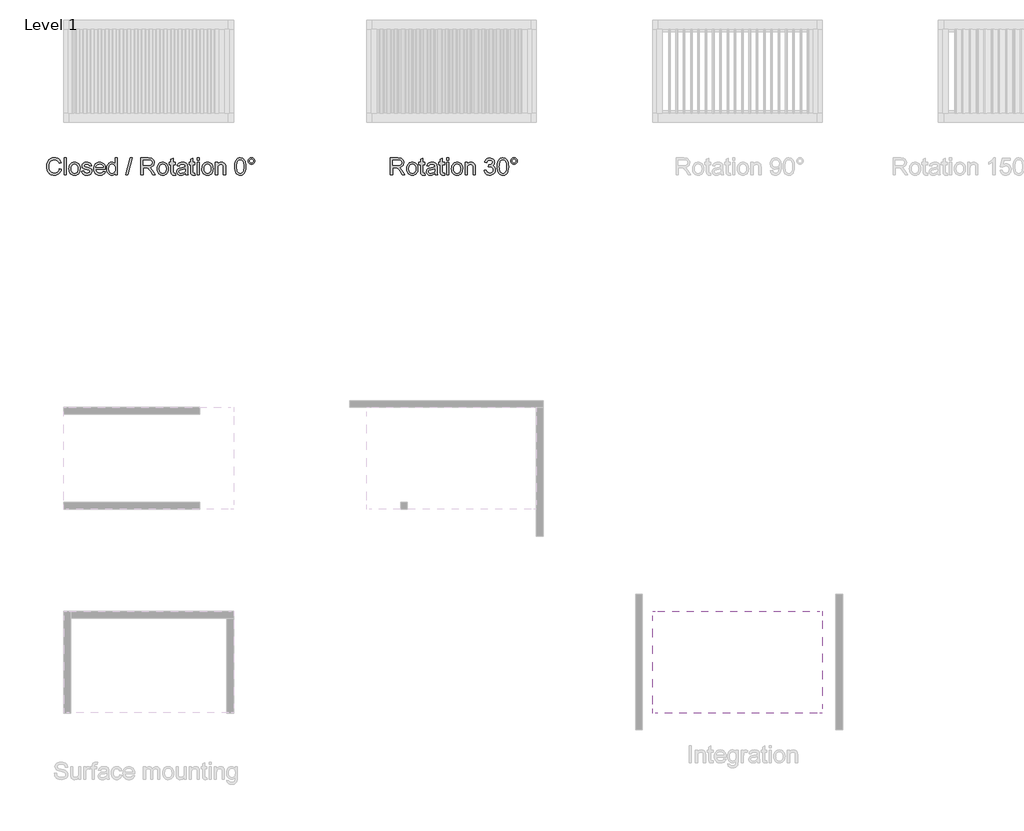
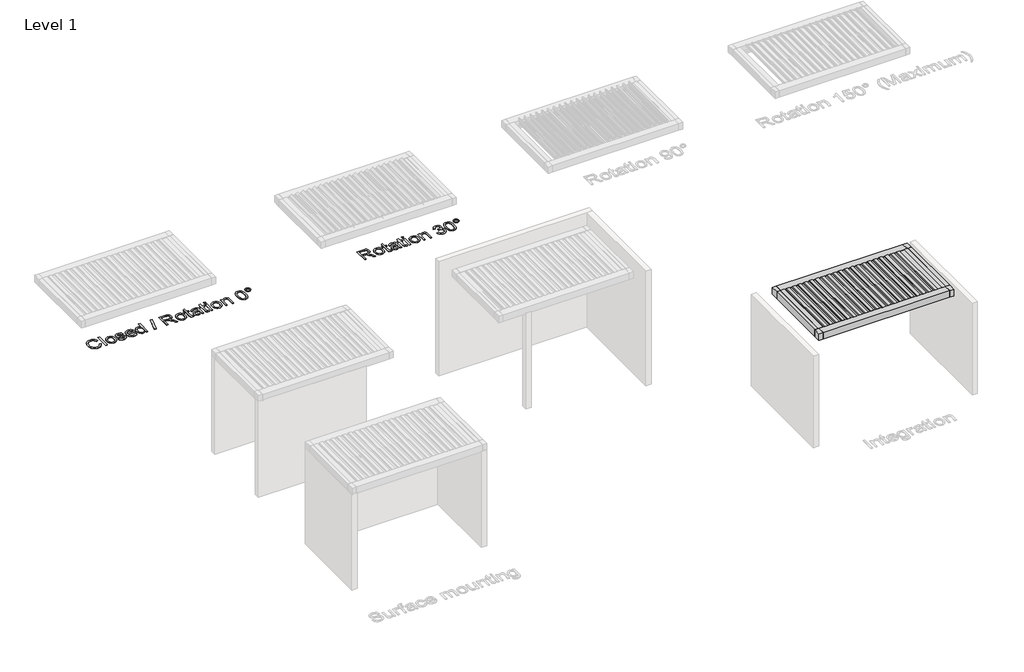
# One storey, part 10 of 12: 3 proxies.
"""IFC4 building model written with IfcOpenShell, lengths in millimetres."""

from ifc_helpers import new_model, si_unit, origin, origin_with_axes, place, context, project, spatial, polyline, outline, extrude, transform, mapped, element, save
from components import generic_models_02a216a0

model = new_model("IFC4")

# Units and contexts
model_context = context("Model", 3, world=origin())
ifc_project = project(units=[si_unit("LENGTHUNIT", "METRE", prefix="MILLI")], contexts=[model_context])

# Site, building, storey
site = spatial("IfcSite", under=ifc_project)
building = spatial("IfcBuilding", under=site)
storey = spatial("IfcBuildingStorey", under=building, Name="Level 1", Elevation=0.0)

# Proxies
placement = place(None, origin())
generic_models_shape = generic_models_02a216a0(model_context)
element("IfcBuildingElementProxy", 1, Name="Renson_Aero_Skye_Patio covers : Aero Skye - Single", ObjectType="Renson_Aero_Skye_Patio covers : Aero Skye - Single", at=placement, inside=storey, context=model_context, shape_type="MappedRepresentation", body=[
    mapped(generic_models_shape, transform((56233.8596032, 291.5921629, 4000.0), x_axis=(1.0, 0.0, 0.0), y_axis=(0.0, 1.0, 0.0), z_axis=(0.0, 0.0, 1.0))),
])
element("IfcBuildingElementProxy", 2, Name="500mm Arial", ObjectType="500mm Arial", at=placement, inside=storey, context=model_context, shape_type="SweptSolid", body=[
    extrude(outline(polyline([(36262.730449, 14824.3526803), (36325.5156429, 14808.1658725), (36313.0919613, 14769.1205637), (36296.5449358, 14735.0033407), (36275.8745662, 14705.8142036), (36251.0808525, 14681.5531525), (36222.7232821, 14662.4807703), (36191.361342, 14648.8576402), (36156.9950323, 14640.6837621), (36119.6243529, 14637.9591361), (36081.3378007, 14640.0208081), (36046.7990463, 14646.2058241), (36016.0080897, 14656.5141842), (35988.964931, 14670.9458883), (35965.2978559, 14689.2863386), (35944.6351505, 14711.3209373), (35926.9768148, 14737.0496843), (35912.3228486, 14766.4725797), (35900.81504, 14798.3173649), (35892.5951766, 14831.3117814), (35887.6632586, 14865.455829), (35886.019286, 14900.7495079), (35887.8778565, 14938.6183608), (35893.453568, 14973.9886818), (35902.7464205, 15006.8604709), (35915.7564139, 15037.2337282), (35932.1923085, 15064.6064479), (35951.7628642, 15088.4766244), (35974.4680811, 15108.8442578), (36000.3079592, 15125.709348), (36028.4049465, 15138.9339393), (36057.8814914, 15148.380076), (36088.7375937, 15154.0477579), (36120.9732536, 15155.9369853), (36156.8839012, 15153.4921028), (36189.8131719, 15146.1574556), (36219.7610656, 15133.9330434), (36246.7275823, 15116.8188664), (36270.2681978, 15095.2671129), (36289.9383883, 15069.7299711), (36305.7381535, 15040.207441), (36317.6674937, 15006.6995226), (36254.8822998, 14991.7389881), (36244.9954712, 15016.4292349), (36233.1159484, 15037.5249681), (36219.2437315, 15055.0261876), (36203.3788205, 15068.9328934), (36185.4292448, 15079.5286613), (36165.303034, 15087.0970669), (36143.000188, 15091.6381103), (36118.5207069, 15093.1517914), (36090.3547417, 15091.4733298), (36064.5953378, 15086.437945), (36041.2424953, 15078.045637), (36020.2962142, 15066.2964058), (36002.0209097, 15051.7190817), (35986.6809969, 15034.8424952), (35974.2764759, 15015.6666462), (35964.8073466, 14994.1915347), (35952.8051965, 14948.2369422), (35948.8044798, 14900.8721353), (35953.5409605, 14842.8694074), (35967.7504026, 14792.7148287), (35978.5416078, 14771.0596083), (35991.9693006, 14752.3244513), (36008.033481, 14736.5093576), (36026.7341491, 14723.6143273), (36068.4121135, 14706.4618292), (36113.370359, 14700.7443299), (36140.6664366, 14702.6910388), (36165.7782149, 14708.5311655), (36188.7056938, 14718.2647099), (36209.4488734, 14731.8916722), (36227.5172443, 14749.3507385), (36242.4202972, 14770.5805953), (36254.1580321, 14795.5812426), (36262.730449, 14824.3526803)])), origin_with_axes(), (0.0, 0.0, 1.0), 5.0),
    extrude(outline(polyline([(36403.9971352, 14645.8072853), (36403.9971352, 15148.088836), (36466.782329, 15148.088836), (36466.782329, 14645.8072853), (36403.9971352, 14645.8072853)])), origin_with_axes(), (0.0, 0.0, 1.0), 5.0),
    extrude(outline(polyline([(36545.2638213, 14830.2387922), (36548.6590656, 14878.0098021), (36558.8447983, 14919.1742645), (36575.8210196, 14953.7321795), (36599.5877293, 14981.6835469), (36623.5153874, 14999.5488163), (36649.926249, 15012.309723), (36678.820314, 15019.966267), (36710.1975825, 15022.5184484), (36744.8359716, 15019.4106119), (36776.1557586, 15010.0871026), (36804.1569433, 14994.5479204), (36828.839526, 14972.7930653), (36848.9848973, 14945.5583014), (36863.3744483, 14913.5793925), (36872.0081788, 14876.8563388), (36874.886089, 14835.3891401), (36869.7970548, 14771.9601528), (36863.4357619, 14745.9248374), (36854.529952, 14723.6756409), (36843.1907559, 14704.4576388), (36829.5293047, 14687.5159065), (36813.5455984, 14672.850444), (36795.2396371, 14660.4612514), (36754.5120345, 14643.5846649), (36710.1975825, 14637.9591361), (36675.0533557, 14641.0554762), (36643.4423288, 14650.3444966), (36615.3645019, 14665.8261972), (36590.8198751, 14687.5005781), (36570.8891016, 14714.9997572), (36556.6528348, 14747.9558526), (36548.1110747, 14786.3688643), (36545.2638213, 14830.2387922)]), holes=[polyline([(36608.0490152, 14830.3614195), (36609.8654325, 14799.9076881), (36615.3146846, 14773.5389797), (36624.3967713, 14751.2552943), (36637.1116928, 14733.0566318), (36652.578065, 14718.9199997), (36669.914504, 14708.8224054), (36689.1210099, 14702.7638488), (36710.1975825, 14700.7443299), (36731.1668562, 14702.7753451), (36750.29672, 14708.8683906), (36767.5871738, 14719.0234665), (36783.0382176, 14733.2405728), (36795.753139, 14751.6193442), (36804.8352258, 14774.2594153), (36810.2844778, 14801.1607862), (36812.1008952, 14832.3234568), (36810.2729815, 14861.811498), (36804.7892405, 14887.4904277), (36795.6496722, 14909.3602459), (36782.8542766, 14927.4209526), (36767.3457512, 14941.5575847), (36750.0667937, 14951.655179), (36731.0174042, 14957.7137356), (36710.1975825, 14959.7332545), (36689.1210099, 14957.7213998), (36669.914504, 14951.6858359), (36652.578065, 14941.6265626), (36637.1116928, 14927.5435799), (36624.3967713, 14909.3985669), (36615.3146846, 14887.1532025), (36609.8654325, 14860.8074867), (36608.0490152, 14830.3614195)])]), origin_with_axes(), (0.0, 0.0, 1.0), 5.0),
    extrude(outline(polyline([(36921.9749844, 14755.6813745), (36984.7601782, 14763.5295237), (36994.6623353, 14736.6741381), (37013.8228559, 14716.9311377), (37042.3643673, 14704.7910318), (37080.409497, 14700.7443299), (37117.9947742, 14704.4538067), (37144.4209642, 14715.582237), (37160.0559489, 14731.7077312), (37165.2676105, 14750.4083993), (37160.0252921, 14766.411266), (37144.2983368, 14778.6126855), (37079.673733, 14796.516276), (37022.3761123, 14813.0862942), (36985.1280602, 14827.2344226), (36961.2004021, 14842.670138), (36943.8639631, 14863.1029171), (36933.333341, 14887.2298446), (36929.8231336, 14913.7480051), (36932.6435623, 14938.074202), (36941.1048482, 14960.5303322), (36954.4405705, 14980.2273473), (36971.8843084, 14996.2761994), (36989.2207474, 15006.3776258), (37011.7995049, 15014.8542401), (37037.9037981, 15020.6023963), (37065.8168445, 15022.5184484), (37106.6824028, 15019.4374366), (37142.2136722, 15010.1944015), (37170.7858405, 14995.6937195), (37190.7740955, 14976.8397673), (37204.0178474, 14952.2376589), (37212.3565059, 14920.4925084), (37149.5713121, 14912.6443591), (37141.6465208, 14932.4026879), (37125.9655507, 14947.2865803), (37102.3751178, 14956.621586), (37070.7219378, 14959.7332545), (37034.6695023, 14956.7595417), (37010.6345452, 14947.8384033), (36997.1148819, 14934.9625335), (36992.6083275, 14920.1246264), (36994.4783943, 14910.467724), (37000.0885947, 14901.8531539), (37009.6841834, 14894.1582889), (37023.5104151, 14887.9962654), (37077.5890684, 14874.6298863), (37169.7435082, 14845.0766993), (37194.0850335, 14830.9438994), (37212.5404469, 14811.5994378), (37224.174715, 14786.9820009), (37228.0528044, 14757.0302752), (37223.5002647, 14726.0668739), (37209.8426456, 14696.9428826), (37187.6011133, 14671.9422354), (37157.296834, 14653.3488662), (37120.6925755, 14641.8065686), (37079.5511057, 14637.9591361), (37045.7596116, 14639.8138745), (37016.2447457, 14645.3780896), (36991.006508, 14654.6517816), (36970.0448984, 14667.6349503), (36952.9230572, 14684.2662822), (36939.2041245, 14704.4844635), (36928.8881002, 14728.2894943), (36921.9749844, 14755.6813745)])), origin_with_axes(), (0.0, 0.0, 1.0), 5.0),
    extrude(outline(polyline([(37556.9393081, 14755.6813745), (37618.4982286, 14747.8332253), (37609.0597562, 14723.1774674), (37596.31801, 14701.4494371), (37580.27299, 14682.6491343), (37560.9246964, 14666.776559), (37538.4723983, 14654.1689365), (37513.1153654, 14645.1634918), (37484.8535975, 14639.760225), (37453.6870948, 14637.9591361), (37414.7299243, 14641.0669725), (37380.0187252, 14650.3904818), (37349.5534975, 14665.929664), (37323.3342411, 14687.6845191), (37302.2500043, 14715.0495746), (37287.1898351, 14747.419358), (37278.1537336, 14784.7938695), (37275.1416998, 14827.1731089), (37278.1843904, 14870.9893874), (37287.3124624, 14909.6093327), (37302.5259158, 14943.0329448), (37323.8247505, 14971.2602237), (37349.975029, 14993.685697), (37379.7428137, 15009.7038922), (37413.1281048, 15019.3148093), (37450.1309021, 15022.5184484), (37485.9419151, 15019.3224735), (37518.327027, 15009.734549), (37547.2862378, 14993.7546749), (37572.8195475, 14971.382851), (37593.6623618, 14943.2168858), (37608.5500863, 14909.8545873), (37617.482721, 14871.2959557), (37620.4602659, 14827.5409909), (37620.0923839, 14810.6184191), (37337.9268936, 14810.6184191), (37341.5635604, 14785.5641224), (37348.7947409, 14763.6214942), (37359.620435, 14744.7905346), (37374.0406428, 14729.0712435), (37391.2582866, 14716.6782188), (37410.4762887, 14707.8260583), (37431.6946492, 14702.514762), (37454.9133681, 14700.7443299), (37488.329316, 14704.024611), (37516.4722886, 14713.8654544), (37539.342286, 14730.8799967), (37556.9393081, 14755.6813745)]), holes=[polyline([(37337.9268936, 14873.403613), (37557.6750721, 14873.403613), (37549.1831293, 14906.5743062), (37532.5364691, 14930.3026949), (37515.4146279, 14943.1785647), (37495.9322105, 14952.3756146), (37474.0892171, 14957.8938445), (37449.8856475, 14959.7332545), (37407.5638896, 14953.862471), (37389.1506293, 14946.5239916), (37372.5691148, 14936.2501205), (37358.6547448, 14923.5160385), (37348.2429179, 14908.7969266), (37341.3336342, 14892.0927847), (37337.9268936, 14873.403613)])]), origin_with_axes(), (0.0, 0.0, 1.0), 5.0),
    extrude(outline(polyline([(37910.8417874, 14645.8072853), (37910.8417874, 14705.0362865), (37892.0568131, 14675.6900332), (37869.3017788, 14654.7284237), (37842.5766847, 14642.151458), (37811.8815307, 14637.9591361), (37771.2918839, 14644.029189), (37734.1358024, 14662.2393477), (37702.6818918, 14691.3173538), (37679.1987578, 14729.9909485), (37664.5754485, 14776.6966335), (37659.7010121, 14829.8709102), (37664.1922381, 14882.386065), (37677.6659162, 14929.8121856), (37687.7673426, 14950.9424077), (37700.1067179, 14969.4514705), (37714.6840419, 14985.3393742), (37731.4993148, 14998.6061187), (37769.4678024, 15016.5403659), (37811.6362761, 15022.5184484), (37842.3544227, 15018.2418202), (37869.5163766, 15005.4119356), (37892.5396582, 14985.7455772), (37910.8417874, 14960.9595278), (37910.8417874, 15148.088836), (37973.6269813, 15148.088836), (37973.6269813, 14645.8072853), (37910.8417874, 14645.8072853)]), holes=[polyline([(37722.4862059, 14830.1161649), (37724.256638, 14799.6700977), (37729.5679343, 14773.3243819), (37738.4200948, 14751.0790175), (37750.8131195, 14732.9340045), (37765.6127056, 14718.8510219), (37781.6845503, 14708.7917485), (37799.0286535, 14702.7561846), (37817.6450153, 14700.7443299), (37836.3495155, 14702.6642141), (37853.5901519, 14708.4238666), (37869.3669246, 14718.0232874), (37883.6798335, 14731.4624765), (37895.5631883, 14748.8487329), (37904.0512989, 14770.2893554), (37909.1441653, 14795.7843441), (37910.8417874, 14825.3336989), (37909.1135085, 14857.7303071), (37903.9286716, 14885.513062), (37895.2872768, 14908.6819635), (37883.1893241, 14927.2370116), (37868.5621827, 14941.4541179), (37852.3332218, 14951.6091938), (37834.5024413, 14957.7022393), (37815.0698414, 14959.7332545), (37796.0855976, 14957.7827135), (37778.7414943, 14951.9310905), (37763.0375317, 14942.1783855), (37748.9737096, 14928.5245986), (37737.3854267, 14910.6708255), (37729.1080818, 14888.3181622), (37724.1416749, 14861.4666086), (37722.4862059, 14830.1161649)])]), origin_with_axes(), (0.0, 0.0, 1.0), 5.0),
    extrude(outline(polyline([(38216.9196074, 14645.8072853), (38358.1862936, 15148.088836), (38414.8401208, 15148.088836), (38273.5734347, 14645.8072853), (38216.9196074, 14645.8072853)])), origin_with_axes(), (0.0, 0.0, 1.0), 5.0),
    extrude(outline(polyline([(38664.2641136, 14645.8072853), (38664.2641136, 15148.088836), (38880.7013541, 15148.088836), (38938.8726945, 15144.701256), (38981.1944524, 15134.5385159), (39012.1271968, 15115.7765341), (39036.131497, 15086.5912292), (39051.5365556, 15050.4008379), (39056.6715751, 15010.6235972), (39054.5447573, 14984.8258723), (39048.1643039, 14961.1434688), (39037.530215, 14939.5763869), (39022.6424905, 14920.1246264), (39003.3095253, 14903.4089882), (38979.339714, 14890.0502733), (38950.7330568, 14880.0484815), (38917.4895536, 14873.403613), (38938.1829158, 14859.8839496), (38953.1741071, 14846.5482273), (39004.0644498, 14781.9236235), (39087.8189173, 14645.8072853), (39014.855655, 14645.8072853), (38949.4952872, 14749.9178899), (38902.2837644, 14818.8344504), (38884.7327276, 14838.9300043), (38869.1130712, 14851.3920069), (38839.2533159, 14863.3481718), (38802.8329984, 14865.5554637), (38727.0493074, 14865.5554637), (38727.0493074, 14645.8072853), (38664.2641136, 14645.8072853)]), holes=[polyline([(38727.0493074, 14928.3406576), (38867.5802296, 14928.3406576), (38907.9399501, 14930.563278), (38939.255905, 14937.2311391), (38962.8310095, 14948.7887652), (38979.9681791, 14965.6806801), (38990.4068307, 14986.1134592), (38993.8863812, 15008.2936779), (38992.2270802, 15024.3501941), (38987.2491769, 15038.919854), (38978.9526715, 15052.0026574), (38967.3375639, 15063.5986045), (38952.1356069, 15073.0945585), (38933.0785531, 15079.8773828), (38883.3991554, 15085.3036422), (38727.0493074, 15085.3036422), (38727.0493074, 14928.3406576)])]), origin_with_axes(), (0.0, 0.0, 1.0), 5.0),
    extrude(outline(polyline([(39143.0012166, 14830.2387922), (39146.3964609, 14878.0098021), (39156.5821936, 14919.1742645), (39173.5584148, 14953.7321795), (39197.3251246, 14981.6835469), (39221.2527827, 14999.5488163), (39247.6636442, 15012.309723), (39276.5577093, 15019.966267), (39307.9349778, 15022.5184484), (39342.5733669, 15019.4106119), (39373.8931538, 15010.0871026), (39401.8943386, 14994.5479204), (39426.5769212, 14972.7930653), (39446.7222926, 14945.5583014), (39461.1118435, 14913.5793925), (39469.7455741, 14876.8563388), (39472.6234843, 14835.3891401), (39467.53445, 14771.9601528), (39461.1731572, 14745.9248374), (39452.2673472, 14723.6756409), (39440.9281511, 14704.4576388), (39427.2667, 14687.5159065), (39411.2829937, 14672.850444), (39392.9770323, 14660.4612514), (39352.2494298, 14643.5846649), (39307.9349778, 14637.9591361), (39272.7907509, 14641.0554762), (39241.1797241, 14650.3444966), (39213.1018972, 14665.8261972), (39188.5572704, 14687.5005781), (39168.6264968, 14714.9997572), (39154.39023, 14747.9558526), (39145.84847, 14786.3688643), (39143.0012166, 14830.2387922)]), holes=[polyline([(39205.7864105, 14830.3614195), (39207.6028278, 14799.9076881), (39213.0520799, 14773.5389797), (39222.1341666, 14751.2552943), (39234.8490881, 14733.0566318), (39250.3154603, 14718.9199997), (39267.6518993, 14708.8224054), (39286.8584051, 14702.7638488), (39307.9349778, 14700.7443299), (39328.9042515, 14702.7753451), (39348.0341153, 14708.8683906), (39365.324569, 14719.0234665), (39380.7756128, 14733.2405728), (39393.4905343, 14751.6193442), (39402.572621, 14774.2594153), (39408.0218731, 14801.1607862), (39409.8382904, 14832.3234568), (39408.0103768, 14861.811498), (39402.5266358, 14887.4904277), (39393.3870675, 14909.3602459), (39380.5916718, 14927.4209526), (39365.0831465, 14941.5575847), (39347.804189, 14951.655179), (39328.7547995, 14957.7137356), (39307.9349778, 14959.7332545), (39286.8584051, 14957.7213998), (39267.6518993, 14951.6858359), (39250.3154603, 14941.6265626), (39234.8490881, 14927.5435799), (39222.1341666, 14909.3985669), (39213.0520799, 14887.1532025), (39207.6028278, 14860.8074867), (39205.7864105, 14830.3614195)])]), origin_with_axes(), (0.0, 0.0, 1.0), 5.0),
    extrude(outline(polyline([(39676.6753643, 14698.1691559), (39684.5235135, 14643.9678753), (39637.5572455, 14637.9591361), (39607.4215787, 14640.5649669), (39584.9501202, 14648.3824593), (39569.0698807, 14660.4305946), (39558.7078712, 14675.7283542), (39553.0057002, 14702.0012601), (39551.1049766, 14746.974834), (39551.1049766, 14951.8851053), (39504.0160812, 14951.8851053), (39504.0160812, 15014.6702991), (39551.1049766, 15014.6702991), (39551.1049766, 15104.3108786), (39613.8901704, 15141.2217055), (39613.8901704, 15014.6702991), (39676.6753643, 15014.6702991), (39676.6753643, 14951.8851053), (39613.8901704, 14951.8851053), (39613.8901704, 14748.8142439), (39617.2011084, 14716.4406284), (39627.9309999, 14704.9749728), (39649.3294693, 14700.7443299), (39676.6753643, 14698.1691559)])), origin_with_axes(), (0.0, 0.0, 1.0), 5.0),
    extrude(outline(polyline([(39974.905035, 14692.8961807), (39944.907324, 14667.1750978), (39914.0205648, 14650.3444966), (39881.5396503, 14641.0554762), (39846.7594734, 14637.9591361), (39818.8042739, 14639.8215387), (39794.2903038, 14645.4087465), (39773.2175633, 14654.7207595), (39755.5860523, 14667.7575777), (39741.664018, 14683.6914666), (39731.7197078, 14701.6946917), (39725.7531217, 14721.7672531), (39723.7642597, 14743.9091507), (39726.7686293, 14769.9368018), (39735.7817382, 14793.57322), (39749.6846119, 14813.8067298), (39767.3582761, 14829.6256555), (39788.1282804, 14841.5818204), (39811.3201745, 14850.2270473), (39865.6440825, 14859.6693518), (39929.8394906, 14869.6021657), (39974.537153, 14881.2517622), (39974.905035, 14895.231278), (39970.5824216, 14923.2516233), (39957.6145813, 14941.5844094), (39944.539442, 14949.5245291), (39928.6132173, 14955.1960432), (39888.2075115, 14959.7332545), (39850.8061753, 14956.7135565), (39824.6865537, 14947.6544623), (39806.8749337, 14930.9005031), (39794.3976027, 14904.7962099), (39731.6124089, 14912.6443591), (39742.510913, 14946.980012), (39758.7743629, 14973.958025), (39781.9202717, 14994.5900735), (39813.4661528, 15009.8878332), (39852.0477771, 15019.3607946), (39896.3009154, 15022.5184484), (39938.7453006, 15019.7286766), (39972.3911747, 15011.3593612), (39997.759704, 14998.7747312), (40015.3720545, 14983.3390159), (40027.0523079, 14964.2551374), (40034.6245456, 14940.7260181), (40037.6902289, 14885.7889735), (40037.6902289, 14807.6753632), (40040.8785395, 14698.5983516), (40045.5996918, 14671.635667), (40053.3865273, 14645.8072853), (39990.6013335, 14645.8072853), (39980.5458923, 14667.6349503), (39974.905035, 14692.8961807)]), holes=[polyline([(39974.905035, 14818.4665684), (39932.7212329, 14808.0125883), (39873.614859, 14799.2140773), (39819.5975194, 14789.0360087), (39805.5413615, 14782.0769077), (39795.1333667, 14772.481319), (39788.6954318, 14760.9850066), (39786.5494535, 14748.3237346), (39791.2246205, 14729.6537234), (39805.2501216, 14714.3559637), (39828.3193884, 14704.1472384), (39860.1258525, 14700.7443299), (39893.8483688, 14704.4997919), (39923.6468104, 14715.766178), (39947.8043947, 14732.3668531), (39964.6043392, 14752.1251819), (39972.0539496, 14772.481319), (39974.537153, 14800.6856053), (39974.905035, 14818.4665684)])]), origin_with_axes(), (0.0, 0.0, 1.0), 5.0),
    extrude(outline(polyline([(40257.4384073, 14698.1691559), (40265.2865566, 14643.9678753), (40218.3202885, 14637.9591361), (40188.1846217, 14640.5649669), (40165.7131632, 14648.3824593), (40149.8329237, 14660.4305946), (40139.4709142, 14675.7283542), (40133.7687433, 14702.0012601), (40131.8680197, 14746.974834), (40131.8680197, 14951.8851053), (40084.7791243, 14951.8851053), (40084.7791243, 15014.6702991), (40131.8680197, 15014.6702991), (40131.8680197, 15104.3108786), (40194.6532135, 15141.2217055), (40194.6532135, 15014.6702991), (40257.4384073, 15014.6702991), (40257.4384073, 14951.8851053), (40194.6532135, 14951.8851053), (40194.6532135, 14748.8142439), (40197.9641515, 14716.4406284), (40208.694043, 14704.9749728), (40230.0925124, 14700.7443299), (40257.4384073, 14698.1691559)])), origin_with_axes(), (0.0, 0.0, 1.0), 5.0),
    extrude(outline(polyline([(40320.2236012, 14645.8072853), (40320.2236012, 15014.6702991), (40383.008795, 15014.6702991), (40383.008795, 14645.8072853), (40320.2236012, 14645.8072853)])), origin_with_axes(), (0.0, 0.0, 1.0), 5.0),
    extrude(outline(polyline([(40320.2236012, 15085.3036422), (40320.2236012, 15148.088836), (40383.008795, 15148.088836), (40383.008795, 15085.3036422), (40320.2236012, 15085.3036422)])), origin_with_axes(), (0.0, 0.0, 1.0), 5.0),
    extrude(outline(polyline([(40461.4902873, 14830.2387922), (40464.8855316, 14878.0098021), (40475.0712643, 14919.1742645), (40492.0474856, 14953.7321795), (40515.8141953, 14981.6835469), (40539.7418534, 14999.5488163), (40566.152715, 15012.309723), (40595.04678, 15019.966267), (40626.4240485, 15022.5184484), (40661.0624376, 15019.4106119), (40692.3822246, 15010.0871026), (40720.3834093, 14994.5479204), (40745.0659919, 14972.7930653), (40765.2113633, 14945.5583014), (40779.6009142, 14913.5793925), (40788.2346448, 14876.8563388), (40791.112555, 14835.3891401), (40786.0235207, 14771.9601528), (40779.6622279, 14745.9248374), (40770.7564179, 14723.6756409), (40759.4172219, 14704.4576388), (40745.7557707, 14687.5159065), (40729.7720644, 14672.850444), (40711.4661031, 14660.4612514), (40670.7385005, 14643.5846649), (40626.4240485, 14637.9591361), (40591.2798216, 14641.0554762), (40559.6687948, 14650.3444966), (40531.5909679, 14665.8261972), (40507.0463411, 14687.5005781), (40487.1155676, 14714.9997572), (40472.8793008, 14747.9558526), (40464.3375407, 14786.3688643), (40461.4902873, 14830.2387922)]), holes=[polyline([(40524.2754812, 14830.3614195), (40526.0918985, 14799.9076881), (40531.5411506, 14773.5389797), (40540.6232373, 14751.2552943), (40553.3381588, 14733.0566318), (40568.804531, 14718.9199997), (40586.14097, 14708.8224054), (40605.3474759, 14702.7638488), (40626.4240485, 14700.7443299), (40647.3933222, 14702.7753451), (40666.523186, 14708.8683906), (40683.8136397, 14719.0234665), (40699.2646835, 14733.2405728), (40711.979605, 14751.6193442), (40721.0616918, 14774.2594153), (40726.5109438, 14801.1607862), (40728.3273612, 14832.3234568), (40726.4994475, 14861.811498), (40721.0157065, 14887.4904277), (40711.8761382, 14909.3602459), (40699.0807425, 14927.4209526), (40683.5722172, 14941.5575847), (40666.2932597, 14951.655179), (40647.2438702, 14957.7137356), (40626.4240485, 14959.7332545), (40605.3474759, 14957.7213998), (40586.14097, 14951.6858359), (40568.804531, 14941.6265626), (40553.3381588, 14927.5435799), (40540.6232373, 14909.3985669), (40531.5411506, 14887.1532025), (40526.0918985, 14860.8074867), (40524.2754812, 14830.3614195)])]), origin_with_axes(), (0.0, 0.0, 1.0), 5.0),
    extrude(outline(polyline([(40861.7458981, 14645.8072853), (40861.7458981, 15014.6702991), (40924.5310919, 15014.6702991), (40924.5310919, 14963.1668198), (40946.3434286, 14989.1331573), (40972.5396923, 15007.6805412), (41003.1198831, 15018.8089716), (41038.0840011, 15022.5184484), (41069.0320739, 15019.5294071), (41097.374316, 15010.5622835), (41121.0107342, 14996.7360519), (41137.8413355, 14979.1696866), (41149.2610057, 14957.9091729), (41156.6646309, 14933.0004962), (41159.9755688, 14872.299967), (41159.9755688, 14645.8072853), (41097.190375, 14645.8072853), (41097.190375, 14863.8386811), (41095.3816219, 14896.3042672), (41089.9553624, 14919.3888624), (41079.9459065, 14935.9282237), (41064.3875638, 14948.7581083), (41044.4452939, 14956.989468), (41021.2840567, 14959.7332545), (41002.2193387, 14958.1927487), (40984.5111856, 14953.5712311), (40968.1595973, 14945.8687018), (40953.1645739, 14935.0851608), (40940.6374255, 14919.9943348), (40931.6894624, 14899.3699505), (40926.3206845, 14873.2120078), (40924.5310919, 14841.5205067), (40924.5310919, 14645.8072853), (40861.7458981, 14645.8072853)])), origin_with_axes(), (0.0, 0.0, 1.0), 5.0),
    extrude(outline(polyline([(41426.8126427, 14892.9013587), (41431.426496, 14973.2989031), (41445.2680561, 15037.4176692), (41455.6147372, 15063.617765), (41468.1993671, 15086.2386756), (41483.0219459, 15105.280401), (41500.0824734, 15120.7429411), (41519.4384313, 15132.7067701), (41541.1473011, 15141.2523623), (41565.2090828, 15146.3797176), (41591.6237765, 15148.088836), (41630.3126997, 15144.0421341), (41664.9549209, 15131.9020282), (41693.925628, 15112.1436994), (41715.6000089, 15085.2423285), (41731.9707577, 15051.4278418), (41745.0305685, 15010.9301655), (41753.5838249, 14959.5033283), (41756.4349104, 14892.9013587), (41751.8670422, 14812.9636668), (41738.1634379, 14748.9981849), (41727.897231, 14722.7865928), (41715.3700826, 14700.1311932), (41700.5819929, 14681.0319863), (41683.5329616, 14665.488972), (41664.1540111, 14653.4446688), (41642.3761634, 14644.8415951), (41618.1994186, 14639.6797508), (41591.6237765, 14637.9591361), (41557.042869, 14640.9481773), (41526.386036, 14649.9153009), (41499.6532777, 14664.860507), (41476.844594, 14685.7837954), (41454.9556153, 14723.6066631), (41439.3206305, 14770.7338795), (41429.9396396, 14827.1654447), (41426.8126427, 14892.9013587)]), holes=[polyline([(41489.5978365, 14893.023986), (41491.4372465, 14838.4433271), (41496.9554764, 14794.2629988), (41506.1525263, 14760.483001), (41519.0283961, 14737.1033338), (41534.6020673, 14721.1962696), (41551.892521, 14709.8340809), (41570.8997574, 14703.0167676), (41591.6237765, 14700.7443299), (41612.3477956, 14703.0244319), (41631.355032, 14709.8647377), (41648.6454858, 14721.2652474), (41664.2191569, 14737.2259611), (41677.0950267, 14760.6439493), (41686.2920766, 14794.4162829), (41691.8103065, 14838.5429618), (41693.6497165, 14893.023986), (41691.8716202, 14946.1599417), (41686.5373313, 14989.5623529), (41677.6468497, 15023.2312197), (41665.2001755, 15047.166542), (41649.8870875, 15063.8515233), (41632.3973643, 15075.7693672), (41612.731006, 15082.9200734), (41590.8880125, 15085.3036422), (41570.2712924, 15083.2036491), (41551.5859527, 15076.90367), (41534.8319935, 15066.4037047), (41520.0094148, 15051.7037533), (41506.7043493, 15025.6454453), (41497.2007311, 14990.5127148), (41491.4985602, 14946.3055617), (41489.5978365, 14893.023986)])]), origin_with_axes(), (0.0, 0.0, 1.0), 5.0),
    extrude(outline(polyline([(41827.0682534, 15061.8818218), (41828.7965324, 15080.7127815), (41833.9813693, 15098.0875415), (41842.622764, 15114.006102), (41854.7207167, 15128.468463), (41869.2405592, 15140.4859415), (41885.1476234, 15149.0698547), (41902.4419093, 15154.2202026), (41921.1234169, 15155.9369853), (41940.0616754, 15154.2202026), (41957.5130775, 15149.0698547), (41973.4776233, 15140.4859415), (41987.9553126, 15128.468463), (41999.9727912, 15114.006102), (42008.5567044, 15098.0875415), (42013.7070523, 15080.7127815), (42015.423835, 15061.8818218), (42013.695556, 15043.0930154), (42008.5107191, 15025.7220874), (41999.8693243, 15009.769038), (41987.7713717, 14995.233867), (41973.2362007, 14983.1359143), (41957.2831513, 14974.4945196), (41939.9122233, 14969.3096827), (41921.1234169, 14967.5814037), (41902.4419093, 14969.2981864), (41885.1476234, 14974.4485343), (41869.2405592, 14983.0324475), (41854.7207167, 14995.049926), (41842.622764, 15009.5276154), (41833.9813693, 15025.4921611), (41828.7965324, 15042.9435633), (41827.0682534, 15061.8818218)]), holes=[polyline([(41866.3089996, 15061.7591945), (41870.3403731, 15040.6366366), (41882.4344937, 15022.8863303), (41900.2307852, 15010.838195), (41921.3686715, 15006.8221499), (41942.3226168, 15010.838195), (41960.0575947, 15022.8863303), (41972.1517153, 15040.6366366), (41976.1830888, 15061.7591945), (41972.1517153, 15082.8817524), (41960.0575947, 15100.6320587), (41942.3226168, 15112.680194), (41921.3686715, 15116.6962391), (41900.2307852, 15112.680194), (41882.4344937, 15100.6320587), (41870.3403731, 15082.8817524), (41866.3089996, 15061.7591945)])]), origin_with_axes(), (0.0, 0.0, 1.0), 5.0),
])
element("IfcBuildingElementProxy", 3, Name="500mm Arial", ObjectType="500mm Arial", at=placement, inside=storey, context=model_context, shape_type="SweptSolid", body=[
    extrude(outline(polyline([(46014.9772616, 14645.8072853), (46014.9772616, 15148.088836), (46231.4145021, 15148.088836), (46289.5858426, 15144.701256), (46331.9076005, 15134.5385159), (46362.8403449, 15115.7765341), (46386.8446451, 15086.5912292), (46402.2497037, 15050.4008379), (46407.3847232, 15010.6235972), (46405.2579054, 14984.8258723), (46398.877452, 14961.1434688), (46388.2433631, 14939.5763869), (46373.3556386, 14920.1246264), (46354.0226733, 14903.4089882), (46330.0528621, 14890.0502733), (46301.4462049, 14880.0484815), (46268.2027017, 14873.403613), (46288.8960639, 14859.8839496), (46303.8872552, 14846.5482273), (46354.7775979, 14781.9236235), (46438.5320654, 14645.8072853), (46365.5688031, 14645.8072853), (46300.2084352, 14749.9178899), (46252.9969125, 14818.8344504), (46235.4458757, 14838.9300043), (46219.8262193, 14851.3920069), (46189.966464, 14863.3481718), (46153.5461465, 14865.5554637), (46077.7624555, 14865.5554637), (46077.7624555, 14645.8072853), (46014.9772616, 14645.8072853)]), holes=[polyline([(46077.7624555, 14928.3406576), (46218.2933776, 14928.3406576), (46258.6530982, 14930.563278), (46289.969053, 14937.2311391), (46313.5441576, 14948.7887652), (46330.6813272, 14965.6806801), (46341.1199788, 14986.1134592), (46344.5995293, 15008.2936779), (46342.9402282, 15024.3501941), (46337.962325, 15038.919854), (46329.6658196, 15052.0026574), (46318.050712, 15063.5986045), (46302.848755, 15073.0945585), (46283.7917012, 15079.8773828), (46234.1123034, 15085.3036422), (46077.7624555, 15085.3036422), (46077.7624555, 14928.3406576)])]), origin_with_axes(), (0.0, 0.0, 1.0), 5.0),
    extrude(outline(polyline([(46493.7143647, 14830.2387922), (46497.109609, 14878.0098021), (46507.2953417, 14919.1742645), (46524.2715629, 14953.7321795), (46548.0382727, 14981.6835469), (46571.9659308, 14999.5488163), (46598.3767923, 15012.309723), (46627.2708574, 15019.966267), (46658.6481259, 15022.5184484), (46693.286515, 15019.4106119), (46724.6063019, 15010.0871026), (46752.6074867, 14994.5479204), (46777.2900693, 14972.7930653), (46797.4354407, 14945.5583014), (46811.8249916, 14913.5793925), (46820.4587222, 14876.8563388), (46823.3366324, 14835.3891401), (46818.2475981, 14771.9601528), (46811.8863053, 14745.9248374), (46802.9804953, 14723.6756409), (46791.6412992, 14704.4576388), (46777.9798481, 14687.5159065), (46761.9961418, 14672.850444), (46743.6901804, 14660.4612514), (46702.9625779, 14643.5846649), (46658.6481259, 14637.9591361), (46623.503899, 14641.0554762), (46591.8928722, 14650.3444966), (46563.8150453, 14665.8261972), (46539.2704184, 14687.5005781), (46519.3396449, 14714.9997572), (46505.1033781, 14747.9558526), (46496.5616181, 14786.3688643), (46493.7143647, 14830.2387922)]), holes=[polyline([(46556.4995585, 14830.3614195), (46558.3159759, 14799.9076881), (46563.765228, 14773.5389797), (46572.8473147, 14751.2552943), (46585.5622362, 14733.0566318), (46601.0286084, 14718.9199997), (46618.3650474, 14708.8224054), (46637.5715532, 14702.7638488), (46658.6481259, 14700.7443299), (46679.6173996, 14702.7753451), (46698.7472634, 14708.8683906), (46716.0377171, 14719.0234665), (46731.4887609, 14733.2405728), (46744.2036824, 14751.6193442), (46753.2857691, 14774.2594153), (46758.7350212, 14801.1607862), (46760.5514385, 14832.3234568), (46758.7235249, 14861.811498), (46753.2397839, 14887.4904277), (46744.1002156, 14909.3602459), (46731.3048199, 14927.4209526), (46715.7962946, 14941.5575847), (46698.5173371, 14951.655179), (46679.4679475, 14957.7137356), (46658.6481259, 14959.7332545), (46637.5715532, 14957.7213998), (46618.3650474, 14951.6858359), (46601.0286084, 14941.6265626), (46585.5622362, 14927.5435799), (46572.8473147, 14909.3985669), (46563.765228, 14887.1532025), (46558.3159759, 14860.8074867), (46556.4995585, 14830.3614195)])]), origin_with_axes(), (0.0, 0.0, 1.0), 5.0),
    extrude(outline(polyline([(47027.3885124, 14698.1691559), (47035.2366616, 14643.9678753), (46988.2703936, 14637.9591361), (46958.1347268, 14640.5649669), (46935.6632682, 14648.3824593), (46919.7830288, 14660.4305946), (46909.4210193, 14675.7283542), (46903.7188483, 14702.0012601), (46901.8181247, 14746.974834), (46901.8181247, 14951.8851053), (46854.7292293, 14951.8851053), (46854.7292293, 15014.6702991), (46901.8181247, 15014.6702991), (46901.8181247, 15104.3108786), (46964.6033185, 15141.2217055), (46964.6033185, 15014.6702991), (47027.3885124, 15014.6702991), (47027.3885124, 14951.8851053), (46964.6033185, 14951.8851053), (46964.6033185, 14748.8142439), (46967.9142565, 14716.4406284), (46978.644148, 14704.9749728), (47000.0426174, 14700.7443299), (47027.3885124, 14698.1691559)])), origin_with_axes(), (0.0, 0.0, 1.0), 5.0),
    extrude(outline(polyline([(47325.6181831, 14692.8961807), (47295.6204721, 14667.1750978), (47264.7337129, 14650.3444966), (47232.2527984, 14641.0554762), (47197.4726215, 14637.9591361), (47169.5174219, 14639.8215387), (47145.0034519, 14645.4087465), (47123.9307114, 14654.7207595), (47106.2992003, 14667.7575777), (47092.3771661, 14683.6914666), (47082.4328559, 14701.6946917), (47076.4662698, 14721.7672531), (47074.4774078, 14743.9091507), (47077.4817774, 14769.9368018), (47086.4948863, 14793.57322), (47100.39776, 14813.8067298), (47118.0714242, 14829.6256555), (47138.8414285, 14841.5818204), (47162.0333226, 14850.2270473), (47216.3572306, 14859.6693518), (47280.5526387, 14869.6021657), (47325.2503011, 14881.2517622), (47325.6181831, 14895.231278), (47321.2955697, 14923.2516233), (47308.3277294, 14941.5844094), (47295.2525901, 14949.5245291), (47279.3263654, 14955.1960432), (47238.9206596, 14959.7332545), (47201.5193234, 14956.7135565), (47175.3997018, 14947.6544623), (47157.5880818, 14930.9005031), (47145.1107508, 14904.7962099), (47082.325557, 14912.6443591), (47093.2240611, 14946.980012), (47109.487511, 14973.958025), (47132.6334198, 14994.5900735), (47164.1793009, 15009.8878332), (47202.7609252, 15019.3607946), (47247.0140635, 15022.5184484), (47289.4584487, 15019.7286766), (47323.1043228, 15011.3593612), (47348.4728521, 14998.7747312), (47366.0852026, 14983.3390159), (47377.7654559, 14964.2551374), (47385.3376937, 14940.7260181), (47388.403377, 14885.7889735), (47388.403377, 14807.6753632), (47391.5916876, 14698.5983516), (47396.3128399, 14671.635667), (47404.0996754, 14645.8072853), (47341.3144816, 14645.8072853), (47331.2590404, 14667.6349503), (47325.6181831, 14692.8961807)]), holes=[polyline([(47325.6181831, 14818.4665684), (47283.434381, 14808.0125883), (47224.3280071, 14799.2140773), (47170.3106675, 14789.0360087), (47156.2545096, 14782.0769077), (47145.8465148, 14772.481319), (47139.4085799, 14760.9850066), (47137.2626016, 14748.3237346), (47141.9377686, 14729.6537234), (47155.9632697, 14714.3559637), (47179.0325365, 14704.1472384), (47210.8390006, 14700.7443299), (47244.5615169, 14704.4997919), (47274.3599585, 14715.766178), (47298.5175428, 14732.3668531), (47315.3174873, 14752.1251819), (47322.7670977, 14772.481319), (47325.2503011, 14800.6856053), (47325.6181831, 14818.4665684)])]), origin_with_axes(), (0.0, 0.0, 1.0), 5.0),
    extrude(outline(polyline([(47608.1515554, 14698.1691559), (47615.9997047, 14643.9678753), (47569.0334366, 14637.9591361), (47538.8977698, 14640.5649669), (47516.4263113, 14648.3824593), (47500.5460718, 14660.4305946), (47490.1840623, 14675.7283542), (47484.4818914, 14702.0012601), (47482.5811677, 14746.974834), (47482.5811677, 14951.8851053), (47435.4922724, 14951.8851053), (47435.4922724, 15014.6702991), (47482.5811677, 15014.6702991), (47482.5811677, 15104.3108786), (47545.3663616, 15141.2217055), (47545.3663616, 15014.6702991), (47608.1515554, 15014.6702991), (47608.1515554, 14951.8851053), (47545.3663616, 14951.8851053), (47545.3663616, 14748.8142439), (47548.6772995, 14716.4406284), (47559.4071911, 14704.9749728), (47580.8056605, 14700.7443299), (47608.1515554, 14698.1691559)])), origin_with_axes(), (0.0, 0.0, 1.0), 5.0),
    extrude(outline(polyline([(47670.9367493, 15085.3036422), (47670.9367493, 15148.088836), (47733.7219431, 15148.088836), (47733.7219431, 15085.3036422), (47670.9367493, 15085.3036422)])), origin_with_axes(), (0.0, 0.0, 1.0), 5.0),
    extrude(outline(polyline([(47670.9367493, 14645.8072853), (47670.9367493, 15014.6702991), (47733.7219431, 15014.6702991), (47733.7219431, 14645.8072853), (47670.9367493, 14645.8072853)])), origin_with_axes(), (0.0, 0.0, 1.0), 5.0),
    extrude(outline(polyline([(47812.2034354, 14830.2387922), (47815.5986797, 14878.0098021), (47825.7844124, 14919.1742645), (47842.7606336, 14953.7321795), (47866.5273434, 14981.6835469), (47890.4550015, 14999.5488163), (47916.865863, 15012.309723), (47945.7599281, 15019.966267), (47977.1371966, 15022.5184484), (48011.7755857, 15019.4106119), (48043.0953726, 15010.0871026), (48071.0965574, 14994.5479204), (48095.77914, 14972.7930653), (48115.9245114, 14945.5583014), (48130.3140623, 14913.5793925), (48138.9477929, 14876.8563388), (48141.8257031, 14835.3891401), (48136.7366688, 14771.9601528), (48130.375376, 14745.9248374), (48121.469566, 14723.6756409), (48110.13037, 14704.4576388), (48096.4689188, 14687.5159065), (48080.4852125, 14672.850444), (48062.1792511, 14660.4612514), (48021.4516486, 14643.5846649), (47977.1371966, 14637.9591361), (47941.9929697, 14641.0554762), (47910.3819429, 14650.3444966), (47882.304116, 14665.8261972), (47857.7594892, 14687.5005781), (47837.8287156, 14714.9997572), (47823.5924489, 14747.9558526), (47815.0506888, 14786.3688643), (47812.2034354, 14830.2387922)]), holes=[polyline([(47874.9886293, 14830.3614195), (47876.8050466, 14799.9076881), (47882.2542987, 14773.5389797), (47891.3363854, 14751.2552943), (47904.0513069, 14733.0566318), (47919.5176791, 14718.9199997), (47936.8541181, 14708.8224054), (47956.0606239, 14702.7638488), (47977.1371966, 14700.7443299), (47998.1064703, 14702.7753451), (48017.2363341, 14708.8683906), (48034.5267878, 14719.0234665), (48049.9778316, 14733.2405728), (48062.6927531, 14751.6193442), (48071.7748398, 14774.2594153), (48077.2240919, 14801.1607862), (48079.0405093, 14832.3234568), (48077.2125956, 14861.811498), (48071.7288546, 14887.4904277), (48062.5892863, 14909.3602459), (48049.7938906, 14927.4209526), (48034.2853653, 14941.5575847), (48017.0064078, 14951.655179), (47997.9570183, 14957.7137356), (47977.1371966, 14959.7332545), (47956.0606239, 14957.7213998), (47936.8541181, 14951.6858359), (47919.5176791, 14941.6265626), (47904.0513069, 14927.5435799), (47891.3363854, 14909.3985669), (47882.2542987, 14887.1532025), (47876.8050466, 14860.8074867), (47874.9886293, 14830.3614195)])]), origin_with_axes(), (0.0, 0.0, 1.0), 5.0),
    extrude(outline(polyline([(48212.4590462, 14645.8072853), (48212.4590462, 15014.6702991), (48275.24424, 15014.6702991), (48275.24424, 14963.1668198), (48297.0565766, 14989.1331573), (48323.2528404, 15007.6805412), (48353.8330312, 15018.8089716), (48388.7971492, 15022.5184484), (48419.745222, 15019.5294071), (48448.0874641, 15010.5622835), (48471.7238823, 14996.7360519), (48488.5544836, 14979.1696866), (48499.9741538, 14957.9091729), (48507.377779, 14933.0004962), (48510.6887169, 14872.299967), (48510.6887169, 14645.8072853), (48447.9035231, 14645.8072853), (48447.9035231, 14863.8386811), (48446.0947699, 14896.3042672), (48440.6685105, 14919.3888624), (48430.6590546, 14935.9282237), (48415.1007118, 14948.7581083), (48395.158442, 14956.989468), (48371.9972047, 14959.7332545), (48352.9324868, 14958.1927487), (48335.2243336, 14953.5712311), (48318.8727454, 14945.8687018), (48303.877722, 14935.0851608), (48291.3505736, 14919.9943348), (48282.4026105, 14899.3699505), (48277.0338326, 14873.2120078), (48275.24424, 14841.5205067), (48275.24424, 14645.8072853), (48212.4590462, 14645.8072853)])), origin_with_axes(), (0.0, 0.0, 1.0), 5.0),
    extrude(outline(polyline([(48777.5257908, 14779.2258222), (48840.3109846, 14787.0739714), (48854.3671425, 14747.6186275), (48863.843936, 14732.696414), (48874.9532058, 14720.9778396), (48887.9478709, 14712.1256791), (48903.08085, 14705.8027073), (48939.7617506, 14700.7443299), (48962.5091207, 14702.4841052), (48982.8039441, 14707.703431), (49000.6462208, 14716.4023073), (49016.035951, 14728.5807342), (49028.4289757, 14743.3266708), (49037.2811362, 14759.7280765), (49042.5924325, 14777.7849511), (49044.3628646, 14797.4972946), (49042.6077609, 14816.2707727), (49037.3424499, 14833.3504607), (49028.5669314, 14848.7363588), (49016.2812056, 14862.4284668), (49001.2900143, 14873.6680282), (48984.3980994, 14881.6962863), (48965.6054608, 14886.5132412), (48944.9120986, 14888.1188928), (48900.8888865, 14881.2517622), (48907.8786444, 14944.036956), (48917.9340856, 14943.3011921), (48955.5500196, 14947.8077465), (48989.1805653, 14961.3274098), (49003.0221254, 14971.5514636), (49012.908954, 14984.1974072), (49018.8410512, 14999.2652406), (49020.8184169, 15016.7549638), (49015.0855891, 15043.8709325), (48997.8871059, 15065.8672101), (48971.6448569, 15080.4445342), (48938.780732, 15085.3036422), (48905.8552934, 15080.3985489), (48878.9385941, 15065.6832691), (48868.0477542, 15054.6468093), (48859.2875642, 15041.1578028), (48848.1591338, 15006.8221499), (48785.37394, 15014.6702991), (48792.8158862, 15044.6450175), (48803.8600103, 15071.0482149), (48818.5063122, 15093.8798912), (48836.754792, 15113.1400465), (48858.030634, 15128.4301419), (48881.7590227, 15139.3516387), (48907.9399581, 15145.9045367), (48936.57344, 15148.088836), (48976.0441124, 15143.781551), (49012.2958174, 15130.8596959), (49042.8606798, 15110.472902), (49065.2708247, 15083.7708005), (49079.0204142, 15053.0066687), (49083.6036107, 15020.4337837), (49079.2503405, 14990.0835191), (49066.1905296, 14962.5536831), (49044.6081193, 14939.1012059), (49014.6870503, 14920.9830177), (49035.6103388, 14914.4377839), (49053.9891101, 14905.1027782), (49069.8233643, 14892.9780008), (49083.1131014, 14878.0634516), (49093.6283951, 14860.7270126), (49101.1393192, 14841.3365657), (49105.6458736, 14819.8921111), (49107.1480584, 14796.3936486), (49104.1436888, 14764.5411992), (49095.1305799, 14735.2026101), (49080.1087318, 14708.3778813), (49059.0781444, 14684.0670128), (49033.4566963, 14663.8948167), (49004.662266, 14649.4861052), (48972.6948534, 14640.8408784), (48937.5544587, 14637.9591361), (48905.7939797, 14640.4193469), (48876.8539295, 14647.7999794), (48850.7343078, 14660.1010336), (48827.4351148, 14677.3225095), (48807.899048, 14698.4527316), (48793.0688051, 14722.4800245), (48782.944386, 14749.404388), (48777.5257908, 14779.2258222)])), origin_with_axes(), (0.0, 0.0, 1.0), 5.0),
    extrude(outline(polyline([(49162.0851031, 14892.9013587), (49166.6989564, 14973.2989031), (49180.5405165, 15037.4176692), (49190.8871976, 15063.617765), (49203.4718275, 15086.2386756), (49218.2944062, 15105.280401), (49235.3549338, 15120.7429411), (49254.7108917, 15132.7067701), (49276.4197615, 15141.2523623), (49300.4815432, 15146.3797176), (49326.8962369, 15148.088836), (49365.5851601, 15144.0421341), (49400.2273813, 15131.9020282), (49429.1980884, 15112.1436994), (49450.8724693, 15085.2423285), (49467.2432181, 15051.4278418), (49480.3030289, 15010.9301655), (49488.8562853, 14959.5033283), (49491.7073707, 14892.9013587), (49487.1395026, 14812.9636668), (49473.4358983, 14748.9981849), (49463.1696914, 14722.7865928), (49450.642543, 14700.1311932), (49435.8544532, 14681.0319863), (49418.805422, 14665.488972), (49399.4264715, 14653.4446688), (49377.6486238, 14644.8415951), (49353.4718789, 14639.6797508), (49326.8962369, 14637.9591361), (49292.3153293, 14640.9481773), (49261.6584964, 14649.9153009), (49234.9257381, 14664.860507), (49212.1170544, 14685.7837954), (49190.2280757, 14723.6066631), (49174.5930909, 14770.7338795), (49165.2121, 14827.1654447), (49162.0851031, 14892.9013587)]), holes=[polyline([(49224.8702969, 14893.023986), (49226.7097069, 14838.4433271), (49232.2279368, 14794.2629988), (49241.4249867, 14760.483001), (49254.3008565, 14737.1033338), (49269.8745276, 14721.1962696), (49287.1649814, 14709.8340809), (49306.1722178, 14703.0167676), (49326.8962369, 14700.7443299), (49347.620256, 14703.0244319), (49366.6274924, 14709.8647377), (49383.9179461, 14721.2652474), (49399.4916173, 14737.2259611), (49412.3674871, 14760.6439493), (49421.564537, 14794.4162829), (49427.0827669, 14838.5429618), (49428.9221769, 14893.023986), (49427.1440806, 14946.1599417), (49421.8097916, 14989.5623529), (49412.9193101, 15023.2312197), (49400.4726359, 15047.166542), (49385.1595479, 15063.8515233), (49367.6698247, 15075.7693672), (49348.0034664, 15082.9200734), (49326.1604729, 15085.3036422), (49305.5437528, 15083.2036491), (49286.8584131, 15076.90367), (49270.1044539, 15066.4037047), (49255.2818752, 15051.7037533), (49241.9768097, 15025.6454453), (49232.4731915, 14990.5127148), (49226.7710205, 14946.3055617), (49224.8702969, 14893.023986)])]), origin_with_axes(), (0.0, 0.0, 1.0), 5.0),
    extrude(outline(polyline([(49562.3407138, 15061.8818218), (49564.0689928, 15080.7127815), (49569.2538296, 15098.0875415), (49577.8952244, 15114.006102), (49589.9931771, 15128.468463), (49604.5130196, 15140.4859415), (49620.4200838, 15149.0698547), (49637.7143697, 15154.2202026), (49656.3958772, 15155.9369853), (49675.3341358, 15154.2202026), (49692.7855379, 15149.0698547), (49708.7500837, 15140.4859415), (49723.227773, 15128.468463), (49735.2452515, 15114.006102), (49743.8291648, 15098.0875415), (49748.9795127, 15080.7127815), (49750.6962953, 15061.8818218), (49748.9680164, 15043.0930154), (49743.7831795, 15025.7220874), (49735.1417847, 15009.769038), (49723.043832, 14995.233867), (49708.5086611, 14983.1359143), (49692.5556117, 14974.4945196), (49675.1846837, 14969.3096827), (49656.3958772, 14967.5814037), (49637.7143697, 14969.2981864), (49620.4200838, 14974.4485343), (49604.5130196, 14983.0324475), (49589.9931771, 14995.049926), (49577.8952244, 15009.5276154), (49569.2538296, 15025.4921611), (49564.0689928, 15042.9435633), (49562.3407138, 15061.8818218)]), holes=[polyline([(49601.58146, 15061.7591945), (49605.6128335, 15040.6366366), (49617.7069541, 15022.8863303), (49635.5032456, 15010.838195), (49656.6411319, 15006.8221499), (49677.5950772, 15010.838195), (49695.3300551, 15022.8863303), (49707.4241757, 15040.6366366), (49711.4555492, 15061.7591945), (49707.4241757, 15082.8817524), (49695.3300551, 15100.6320587), (49677.5950772, 15112.680194), (49656.6411319, 15116.6962391), (49635.5032456, 15112.680194), (49617.7069541, 15100.6320587), (49605.6128335, 15082.8817524), (49601.58146, 15061.7591945)])]), origin_with_axes(), (0.0, 0.0, 1.0), 5.0),
])

save(model, "model.ifc")
